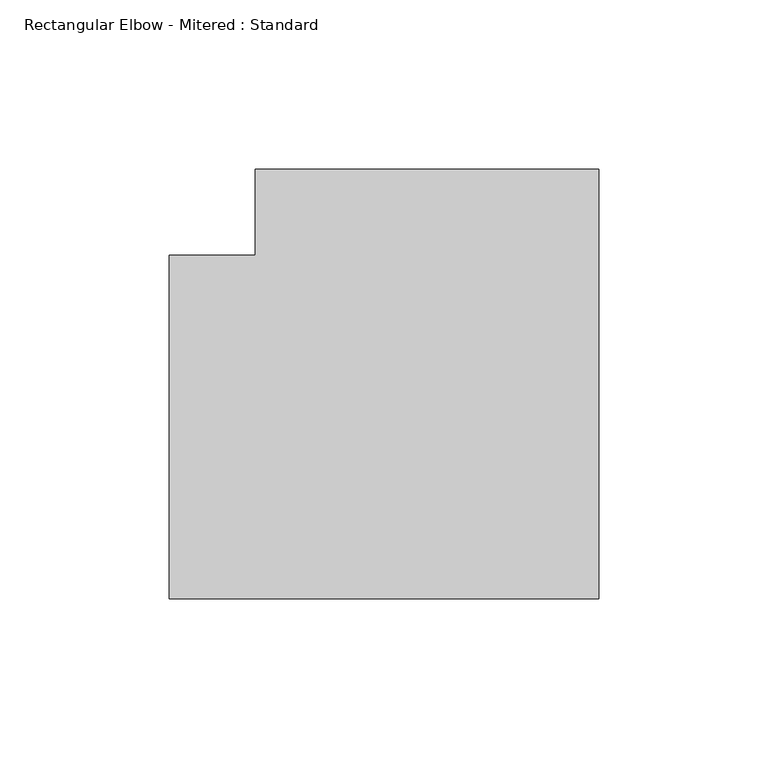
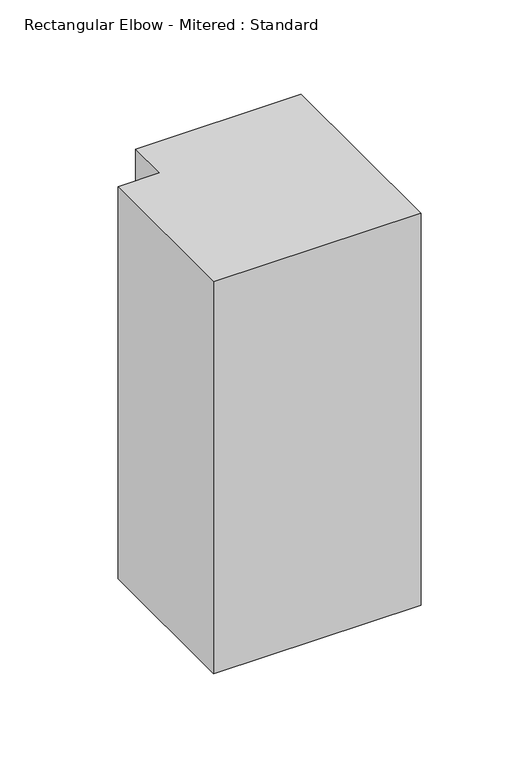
"""IFC4 building model written with IfcOpenShell, lengths in millimetres: duct fitting geometry, Rectangular Elbow - Mitered : Standard."""

from ifc_helpers import new_model, si_unit, frame, origin, place, context, project, spatial, polyline, outline, extrude, source, transform, mapped, element, save


def rectangular_elbow_mitered_standard_85b63649(model_context):
    return source(origin(), model_context, "Body", "SweptSolid", [
        extrude(outline(polyline([(-76.2, -50.8), (-76.2, 50.8), (-50.8, 50.8), (-50.8, 76.2), (50.8, 76.2), (50.8, -50.8), (-76.2, -50.8)])), frame((0.0, 0.0, -127.0), z_axis=(0.0, 0.0, 1.0), x_axis=(1.0, 0.0, 0.0)), (0.0, 0.0, 1.0), 254.0),
    ])


if __name__ == "__main__":
    model = new_model("IFC4")
    model_context = context("Model", 3, world=origin())
    ifc_project = project(units=[si_unit("LENGTHUNIT", "METRE", prefix="MILLI")], contexts=[model_context])
    site = spatial("IfcSite", under=ifc_project)
    building = spatial("IfcBuilding", under=site)
    placement = place(None, origin())
    rectangular_elbow_mitered_standard_shape = rectangular_elbow_mitered_standard_85b63649(model_context)
    element("IfcDuctFitting", 1, ObjectType="Rectangular Elbow - Mitered : Standard", at=placement, inside=building, context=model_context, shape_type="MappedRepresentation", body=[
        mapped(rectangular_elbow_mitered_standard_shape, transform((0.0, 0.0, 0.0), x_axis=(1.0, 0.0, 0.0), y_axis=(0.0, 1.0, 0.0), z_axis=(0.0, 0.0, 1.0))),
    ])
    save(model, "model.ifc")
